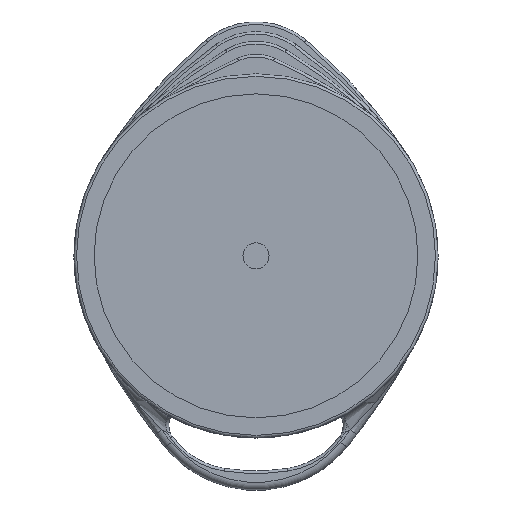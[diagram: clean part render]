
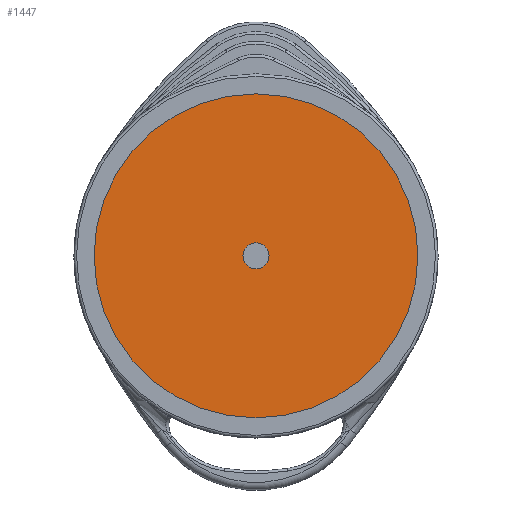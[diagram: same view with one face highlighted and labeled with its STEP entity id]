
A CAD part, top view. The second image highlights one B-rep face of the part: STEP entity #1447.
In plain terms, the highlighted planar face has unit normal (0, 0, 1).
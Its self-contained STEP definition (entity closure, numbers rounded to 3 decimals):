
#1447=ADVANCED_FACE('',(#1617,#1618),#1525,.F.);
#1525=PLANE('',#4676);
#1617=FACE_BOUND('',#1913,.T.);
#1618=FACE_BOUND('',#1914,.T.);
#1913=EDGE_LOOP('',(#2917));
#1914=EDGE_LOOP('',(#2918));
#2917=ORIENTED_EDGE('',*,*,#3790,.T.);
#2918=ORIENTED_EDGE('',*,*,#3791,.F.);
#3284=VERTEX_POINT('',#7665);
#3285=VERTEX_POINT('',#7667);
#3790=EDGE_CURVE('',#3284,#3284,#4131,.T.);
#3791=EDGE_CURVE('',#3285,#3285,#4132,.T.);
#4131=CIRCLE('',#4674,5.);
#4132=CIRCLE('',#4675,62.25);
#4674=AXIS2_PLACEMENT_3D('',#7664,#5883,#5884);
#4675=AXIS2_PLACEMENT_3D('',#7666,#5885,#5886);
#4676=AXIS2_PLACEMENT_3D('',#7668,#5887,#5888);
#5883=DIRECTION('',(0.,0.,-1.));
#5884=DIRECTION('',(-1.,0.,0.));
#5885=DIRECTION('',(0.,0.,-1.));
#5886=DIRECTION('',(-1.,0.,0.));
#5887=DIRECTION('',(0.,0.,-1.));
#5888=DIRECTION('',(0.,-1.,0.));
#7664=CARTESIAN_POINT('',(0.,0.,-221.));
#7665=CARTESIAN_POINT('',(-5.,0.,-221.));
#7666=CARTESIAN_POINT('',(0.,0.,-221.));
#7667=CARTESIAN_POINT('',(-62.25,0.,-221.));
#7668=CARTESIAN_POINT('',(54.772,-5.,-221.));
